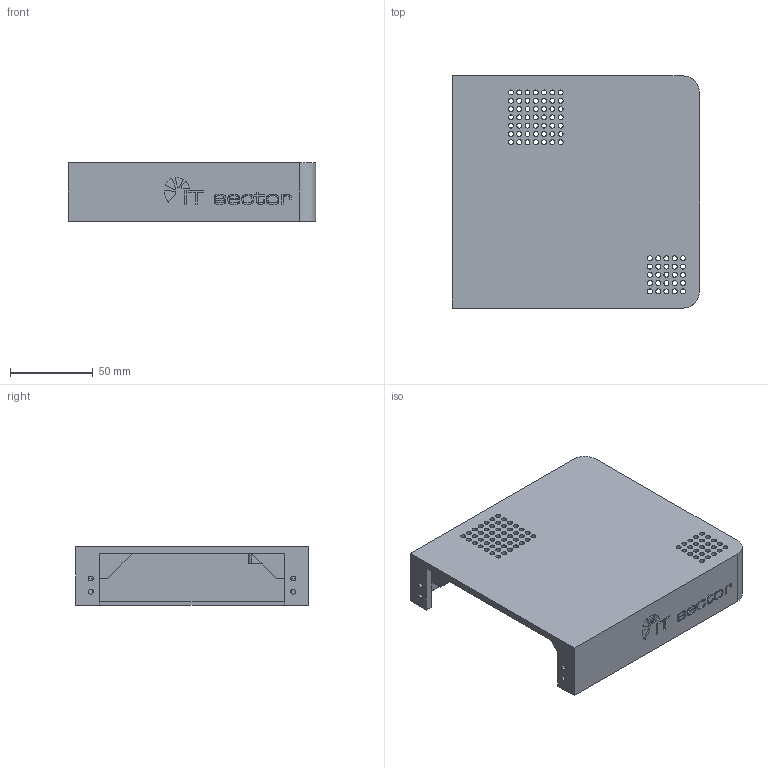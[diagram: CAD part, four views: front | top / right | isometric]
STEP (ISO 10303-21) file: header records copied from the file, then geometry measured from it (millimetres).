
FILE_DESCRIPTION (( 'STEP AP203' ), '1' );
FILE_NAME ('Topback.STEP', '2016-05-26T15:02:23', ( '' ), ( '' ), 'SwSTEP 2.0', 'SolidWorks 2015', '' );
FILE_SCHEMA (( 'CONFIG_CONTROL_DESIGN' ));
Length unit declared in the file: millimetre
Products named in the file (1): Topback
Bounding box: 149.11 x 140 x 35 mm (x, y, z)
Volume: 141388.3 mm3; surface area: 76568.5 mm2
Topology: 1 solids, 1 shells, 406 faces, 1155 edges, 770 vertices
Faces by surface type: cylinder 198, plane 159, bspline 47, cone 2
Entity records: 16527 total; most frequent: CARTESIAN_POINT 5487, ORIENTED_EDGE 2310, DIRECTION 2183, EDGE_CURVE 1155, VERTEX_POINT 770, AXIS2_PLACEMENT_3D 762, VECTOR 659, LINE 659
